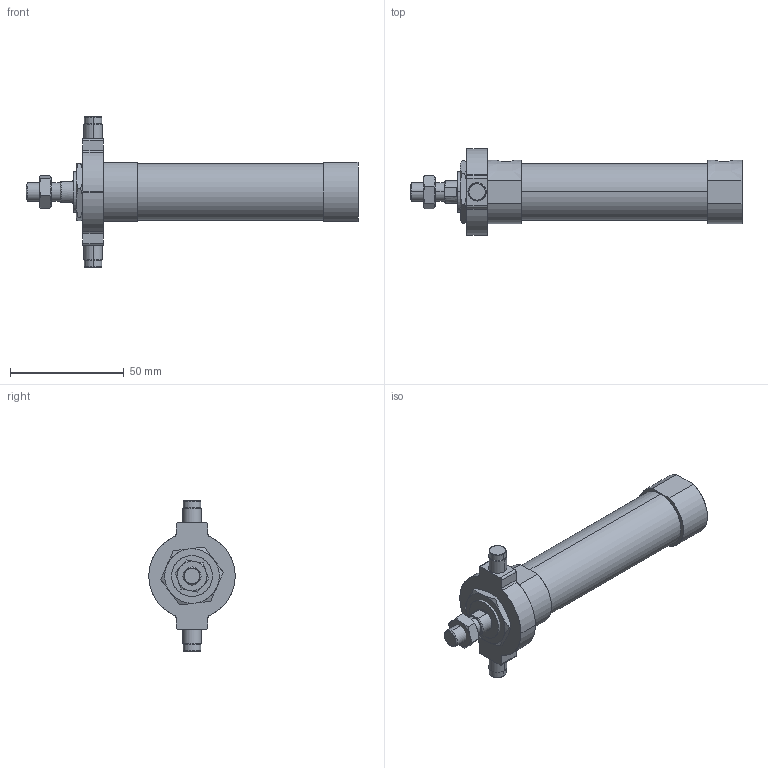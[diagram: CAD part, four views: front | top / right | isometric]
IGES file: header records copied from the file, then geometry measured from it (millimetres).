
Start section: SolidWorks IGES file using analytic representation for surfaces
Global section: file name: C:\Users\Toshiba\Desktop\JGND2-20-50-T.IGS; native system: SolidWorks 2014; preprocessor: SolidWorks 2014; author: Toshiba; date: 160804.102347; units: millimetre
Bounding box: 146 x 38 x 66 mm (x, y, z)
Surface area: 18200.8 mm2 (no closed solid volume)
Topology: 0 solids, 0 shells, 123 faces, 1972 edges, 1972 vertices
Faces by surface type: bspline 68, revolution 55
